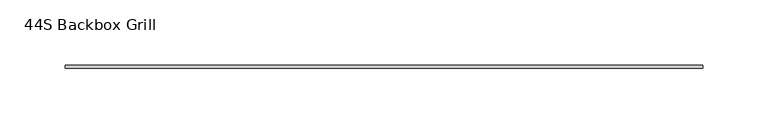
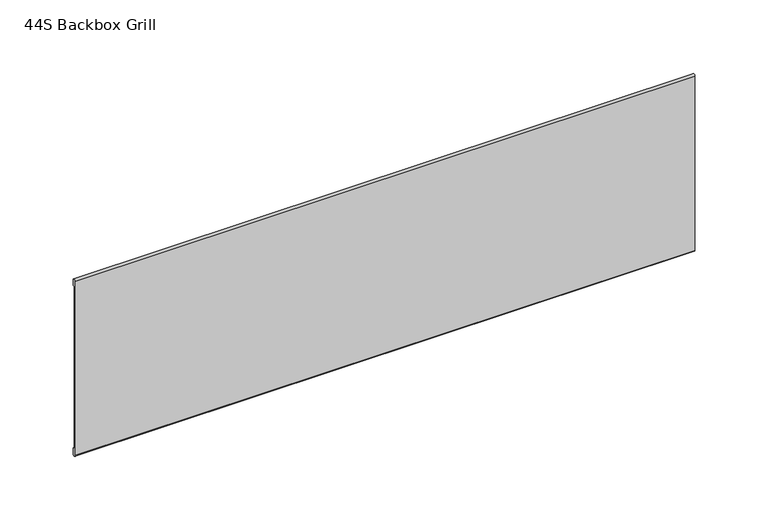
"""IFC4 building model written with IfcOpenShell, lengths in millimetres: proxy geometry, d&b xS-Series 44S Backbox Grill : 44S Backbox Grill."""

from ifc_helpers import new_model, si_unit, point, frame, frame_2d, origin, place, context, project, spatial, polyline, circle_curve, trimmed, segment, composite_curve, outline, extrude, source, transform, mapped, element, save


def proxy_44s_backbox_grill_4ff85e1d(model_context):
    return source(origin(), model_context, "Body", "SweptSolid", [
        extrude(outline(composite_curve([segment(polyline([(-92.5, 72.7), (-92.5, 68.0), (-93.85, 68.0), (-93.85, -68.0), (-92.5, -68.0), (-92.5, -72.7)]), True, "CONTINUOUS"), segment(trimmed(circle_curve(frame_2d((-93.8, -72.7)), 1.3), [point((-92.5, -72.7))], [point((-95.1, -72.7))], False, "CARTESIAN"), True, "CONTINUOUS"), segment(polyline([(-95.1, -72.7), (-95.1, 72.7)]), True, "CONTINUOUS"), segment(trimmed(circle_curve(frame_2d((-93.8, 72.7)), 1.3), [point((-95.1, 72.7))], [point((-92.5, 72.7))], False, "CARTESIAN"), True, "CONTINUOUS")], self_intersect=False)), frame((-245.0, 0.0, 0.0), z_axis=(1.0, 0.0, 0.0), x_axis=(0.0, 1.0, 0.0)), (0.0, 0.0, 1.0), 490.0),
    ])


if __name__ == "__main__":
    model = new_model("IFC4")
    model_context = context("Model", 3, world=origin())
    ifc_project = project(units=[si_unit("LENGTHUNIT", "METRE", prefix="MILLI")], contexts=[model_context])
    site = spatial("IfcSite", under=ifc_project)
    building = spatial("IfcBuilding", under=site)
    placement = place(None, origin())
    proxy_44s_backbox_grill_shape = proxy_44s_backbox_grill_4ff85e1d(model_context)
    element("IfcBuildingElementProxy", 1, Name="d&b xS-Series 44S Backbox Grill : 44S Backbox Grill", ObjectType="d&b xS-Series 44S Backbox Grill : 44S Backbox Grill", at=placement, inside=building, context=model_context, shape_type="MappedRepresentation", body=[
        mapped(proxy_44s_backbox_grill_shape, transform((0.0, 0.0, 0.0), x_axis=(1.0, 0.0, 0.0), y_axis=(0.0, 1.0, 0.0), z_axis=(0.0, 0.0, 1.0))),
    ])
    save(model, "model.ifc")
